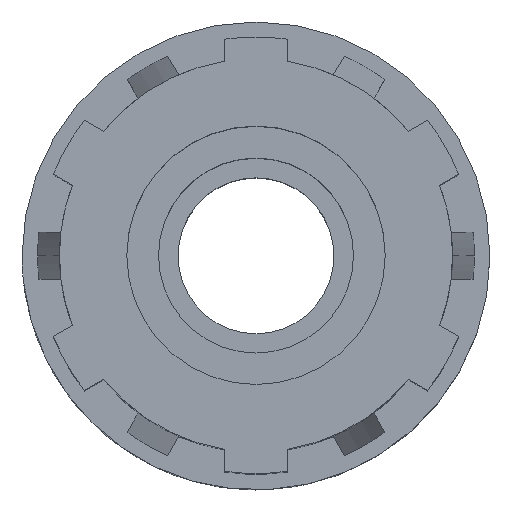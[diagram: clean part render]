
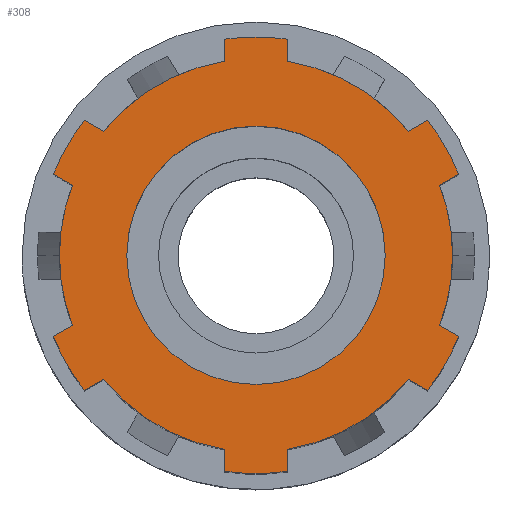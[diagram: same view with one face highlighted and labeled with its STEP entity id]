
A CAD part, top view. The second image highlights one B-rep face of the part: STEP entity #308.
In plain terms, the highlighted planar face has unit normal (0, 0, 1).
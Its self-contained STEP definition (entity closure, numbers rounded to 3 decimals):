
#308=ADVANCED_FACE('0:35',(#601,#602),#603,.T.);
#601=FACE_BOUND('',#892,.T.);
#602=FACE_OUTER_BOUND('',#893,.T.);
#603=PLANE('',#894);
#892=EDGE_LOOP('',(#1528,#1529));
#893=EDGE_LOOP('',(#1530,#1531,#1532,#1533,#1534,#1535,#1536,#1537,#1538,#1539,#1540,#1541,#1542,#1543,#1544,#1545,#1546,#1547,#1548,#1549,#1550,#1551,#1552,#1553,#1554,#1555));
#894=AXIS2_PLACEMENT_3D('',#1556,#1557,#1558);
#1528=ORIENTED_EDGE('',*,*,#1964,.T.);
#1529=ORIENTED_EDGE('',*,*,#1769,.T.);
#1530=ORIENTED_EDGE('',*,*,#1983,.F.);
#1531=ORIENTED_EDGE('',*,*,#2015,.T.);
#1532=ORIENTED_EDGE('',*,*,#1758,.T.);
#1533=ORIENTED_EDGE('',*,*,#2016,.T.);
#1534=ORIENTED_EDGE('',*,*,#1961,.F.);
#1535=ORIENTED_EDGE('',*,*,#1860,.T.);
#1536=ORIENTED_EDGE('',*,*,#1846,.T.);
#1537=ORIENTED_EDGE('',*,*,#2017,.T.);
#1538=ORIENTED_EDGE('',*,*,#1934,.F.);
#1539=ORIENTED_EDGE('',*,*,#1947,.T.);
#1540=ORIENTED_EDGE('',*,*,#1972,.T.);
#1541=ORIENTED_EDGE('',*,*,#1979,.T.);
#1542=ORIENTED_EDGE('',*,*,#1853,.T.);
#1543=ORIENTED_EDGE('',*,*,#2018,.F.);
#1544=ORIENTED_EDGE('',*,*,#1993,.T.);
#1545=ORIENTED_EDGE('',*,*,#1986,.T.);
#1546=ORIENTED_EDGE('',*,*,#1866,.T.);
#1547=ORIENTED_EDGE('',*,*,#1959,.F.);
#1548=ORIENTED_EDGE('',*,*,#2019,.T.);
#1549=ORIENTED_EDGE('',*,*,#1842,.T.);
#1550=ORIENTED_EDGE('',*,*,#1838,.T.);
#1551=ORIENTED_EDGE('',*,*,#1903,.F.);
#1552=ORIENTED_EDGE('',*,*,#1877,.T.);
#1553=ORIENTED_EDGE('',*,*,#2020,.T.);
#1554=ORIENTED_EDGE('',*,*,#1750,.T.);
#1555=ORIENTED_EDGE('',*,*,#2021,.T.);
#1556=CARTESIAN_POINT('',(522.864,476.726,25.0));
#1557=DIRECTION('',(0.0,0.0,1.0));
#1558=DIRECTION('',(1.0,-0.0,0.0));
#1750=EDGE_CURVE('',#2058,#2055,#2059,.T.);
#1758=EDGE_CURVE('',#2073,#2071,#2074,.T.);
#1769=EDGE_CURVE('',#2086,#2090,#2092,.F.);
#1838=EDGE_CURVE('',#2219,#2217,#2220,.T.);
#1842=EDGE_CURVE('',#2224,#2219,#2225,.T.);
#1846=EDGE_CURVE('',#2230,#2228,#2231,.T.);
#1853=EDGE_CURVE('',#2235,#2240,#2242,.T.);
#1860=EDGE_CURVE('',#2253,#2230,#2254,.F.);
#1866=EDGE_CURVE('',#2263,#2261,#2264,.T.);
#1877=EDGE_CURVE('',#2277,#2275,#2278,.F.);
#1903=EDGE_CURVE('',#2277,#2217,#2317,.T.);
#1934=EDGE_CURVE('',#2361,#2363,#2364,.T.);
#1947=EDGE_CURVE('',#2361,#2379,#2381,.F.);
#1959=EDGE_CURVE('',#2394,#2261,#2396,.T.);
#1961=EDGE_CURVE('',#2253,#2398,#2399,.T.);
#1964=EDGE_CURVE('',#2090,#2086,#2402,.F.);
#1972=EDGE_CURVE('',#2379,#2409,#2411,.T.);
#1979=EDGE_CURVE('',#2409,#2235,#2418,.T.);
#1983=EDGE_CURVE('',#2421,#2423,#2424,.T.);
#1986=EDGE_CURVE('',#2427,#2263,#2428,.T.);
#1993=EDGE_CURVE('',#2437,#2427,#2438,.F.);
#2015=EDGE_CURVE('',#2421,#2073,#2462,.F.);
#2016=EDGE_CURVE('',#2071,#2398,#2463,.T.);
#2017=EDGE_CURVE('',#2228,#2363,#2464,.T.);
#2018=EDGE_CURVE('',#2437,#2240,#2465,.T.);
#2019=EDGE_CURVE('',#2394,#2224,#2466,.F.);
#2020=EDGE_CURVE('',#2275,#2058,#2467,.T.);
#2021=EDGE_CURVE('',#2055,#2423,#2468,.T.);
#2055=VERTEX_POINT('',#2502);
#2058=VERTEX_POINT('',#2506);
#2059=CIRCLE('',#2507,12.6);
#2071=VERTEX_POINT('',#2522);
#2073=VERTEX_POINT('',#2525);
#2074=LINE('',#2526,#2527);
#2086=VERTEX_POINT('',#2550);
#2090=VERTEX_POINT('',#2555);
#2092=CIRCLE('',#2558,8.285);
#2217=VERTEX_POINT('',#2722);
#2219=VERTEX_POINT('',#2725);
#2220=CIRCLE('',#2726,12.6);
#2224=VERTEX_POINT('',#2732);
#2225=LINE('',#2733,#2734);
#2228=VERTEX_POINT('',#2738);
#2230=VERTEX_POINT('',#2741);
#2231=LINE('',#2742,#2743);
#2235=VERTEX_POINT('',#2748);
#2240=VERTEX_POINT('',#2755);
#2242=CIRCLE('',#2758,12.6);
#2253=VERTEX_POINT('',#2771);
#2254=CIRCLE('',#2772,14.0);
#2261=VERTEX_POINT('',#2781);
#2263=VERTEX_POINT('',#2784);
#2264=CIRCLE('',#2785,12.6);
#2275=VERTEX_POINT('',#2808);
#2277=VERTEX_POINT('',#2811);
#2278=CIRCLE('',#2812,14.0);
#2317=LINE('',#2875,#2876);
#2361=VERTEX_POINT('',#2953);
#2363=VERTEX_POINT('',#2956);
#2364=LINE('',#2957,#2958);
#2379=VERTEX_POINT('',#2977);
#2381=CIRCLE('',#2980,14.0);
#2394=VERTEX_POINT('',#3014);
#2396=LINE('',#3017,#3018);
#2398=VERTEX_POINT('',#3020);
#2399=LINE('',#3021,#3022);
#2402=CIRCLE('',#3026,8.285);
#2409=VERTEX_POINT('',#3035);
#2411=LINE('',#3038,#3039);
#2418=CIRCLE('',#3048,12.6);
#2421=VERTEX_POINT('',#3052);
#2423=VERTEX_POINT('',#3055);
#2424=LINE('',#3056,#3057);
#2427=VERTEX_POINT('',#3061);
#2428=LINE('',#3062,#3063);
#2437=VERTEX_POINT('',#3091);
#2438=CIRCLE('',#3092,14.0);
#2462=CIRCLE('',#3120,14.0);
#2463=CIRCLE('',#3121,12.6);
#2464=CIRCLE('',#3122,12.6);
#2465=LINE('',#3123,#3124);
#2466=CIRCLE('',#3125,14.0);
#2467=LINE('',#3126,#3127);
#2468=CIRCLE('',#3128,12.6);
#2502=CARTESIAN_POINT('',(510.264,476.726,25.0));
#2506=CARTESIAN_POINT('',(511.091,481.215,25.0));
#2507=AXIS2_PLACEMENT_3D('',#3167,#3168,#3169);
#2522=CARTESIAN_POINT('',(513.091,468.774,25.0));
#2525=CARTESIAN_POINT('',(511.864,468.066,25.0));
#2526=CARTESIAN_POINT('',(512.302,468.319,25.0));
#2527=VECTOR('',#3180,0.001);
#2550=CARTESIAN_POINT('',(514.579,476.726,25.0));
#2555=CARTESIAN_POINT('',(531.149,476.726,25.0));
#2558=AXIS2_PLACEMENT_3D('',#3194,#3195,#3196);
#2722=CARTESIAN_POINT('',(513.091,484.679,25.0));
#2725=CARTESIAN_POINT('',(520.864,489.167,25.0));
#2726=AXIS2_PLACEMENT_3D('',#3321,#3322,#3323);
#2732=CARTESIAN_POINT('',(520.864,490.583,25.0));
#2733=CARTESIAN_POINT('',(520.864,490.077,25.0));
#2734=VECTOR('',#3326,0.001);
#2738=CARTESIAN_POINT('',(524.864,464.286,25.0));
#2741=CARTESIAN_POINT('',(524.864,462.87,25.0));
#2742=CARTESIAN_POINT('',(524.864,463.375,25.0));
#2743=VECTOR('',#3329,0.001);
#2748=CARTESIAN_POINT('',(535.464,476.726,25.0));
#2755=CARTESIAN_POINT('',(534.638,481.215,25.0));
#2758=AXIS2_PLACEMENT_3D('',#3337,#3338,#3339);
#2771=CARTESIAN_POINT('',(520.864,462.87,25.0));
#2772=AXIS2_PLACEMENT_3D('',#3348,#3349,#3350);
#2781=CARTESIAN_POINT('',(524.864,489.167,25.0));
#2784=CARTESIAN_POINT('',(532.638,484.679,25.0));
#2785=AXIS2_PLACEMENT_3D('',#3357,#3358,#3359);
#2808=CARTESIAN_POINT('',(509.864,481.923,25.0));
#2811=CARTESIAN_POINT('',(511.864,485.387,25.0));
#2812=AXIS2_PLACEMENT_3D('',#3370,#3371,#3372);
#2875=CARTESIAN_POINT('',(512.302,485.134,25.0));
#2876=VECTOR('',#3409,0.001);
#2953=CARTESIAN_POINT('',(533.864,468.066,25.0));
#2956=CARTESIAN_POINT('',(532.638,468.774,25.0));
#2957=CARTESIAN_POINT('',(533.427,468.319,25.0));
#2958=VECTOR('',#3453,0.001);
#2977=CARTESIAN_POINT('',(535.864,471.53,25.0));
#2980=AXIS2_PLACEMENT_3D('',#3468,#3469,#3470);
#3014=CARTESIAN_POINT('',(524.864,490.583,25.0));
#3017=CARTESIAN_POINT('',(524.864,490.077,25.0));
#3018=VECTOR('',#3478,0.001);
#3020=CARTESIAN_POINT('',(520.864,464.286,25.0));
#3021=CARTESIAN_POINT('',(520.864,463.375,25.0));
#3022=VECTOR('',#3479,0.001);
#3026=AXIS2_PLACEMENT_3D('',#3481,#3482,#3483);
#3035=CARTESIAN_POINT('',(534.638,472.238,25.0));
#3038=CARTESIAN_POINT('',(535.427,471.783,25.0));
#3039=VECTOR('',#3490,0.001);
#3048=AXIS2_PLACEMENT_3D('',#3493,#3494,#3495);
#3052=CARTESIAN_POINT('',(509.864,471.53,25.0));
#3055=CARTESIAN_POINT('',(511.091,472.238,25.0));
#3056=CARTESIAN_POINT('',(510.302,471.783,25.0));
#3057=VECTOR('',#3498,0.001);
#3061=CARTESIAN_POINT('',(533.864,485.387,25.0));
#3062=CARTESIAN_POINT('',(533.427,485.134,25.0));
#3063=VECTOR('',#3500,0.001);
#3091=CARTESIAN_POINT('',(535.864,481.923,25.0));
#3092=AXIS2_PLACEMENT_3D('',#3505,#3506,#3507);
#3120=AXIS2_PLACEMENT_3D('',#3533,#3534,#3535);
#3121=AXIS2_PLACEMENT_3D('',#3536,#3537,#3538);
#3122=AXIS2_PLACEMENT_3D('',#3539,#3540,#3541);
#3123=CARTESIAN_POINT('',(535.427,481.67,25.0));
#3124=VECTOR('',#3542,0.001);
#3125=AXIS2_PLACEMENT_3D('',#3543,#3544,#3545);
#3126=CARTESIAN_POINT('',(510.302,481.67,25.0));
#3127=VECTOR('',#3546,0.001);
#3128=AXIS2_PLACEMENT_3D('',#3547,#3548,#3549);
#3167=CARTESIAN_POINT('',(522.864,476.726,25.0));
#3168=DIRECTION('',(0.0,0.0,1.0));
#3169=DIRECTION('',(1.0,0.0,0.0));
#3180=DIRECTION('',(0.866,0.5,0.0));
#3194=CARTESIAN_POINT('',(522.864,476.726,25.0));
#3195=DIRECTION('',(0.0,0.0,1.0));
#3196=DIRECTION('',(1.0,0.0,0.0));
#3321=CARTESIAN_POINT('',(522.864,476.726,25.0));
#3322=DIRECTION('',(0.0,0.0,1.0));
#3323=DIRECTION('',(1.0,0.0,0.0));
#3326=DIRECTION('',(0.,-1.,0.0));
#3329=DIRECTION('',(0.,1.,0.0));
#3337=CARTESIAN_POINT('',(522.864,476.726,25.0));
#3338=DIRECTION('',(0.0,0.0,1.0));
#3339=DIRECTION('',(1.0,0.0,0.0));
#3348=CARTESIAN_POINT('',(522.864,476.726,25.0));
#3349=DIRECTION('',(-0.0,0.0,-1.0));
#3350=DIRECTION('',(-1.0,0.0,0.0));
#3357=CARTESIAN_POINT('',(522.864,476.726,25.0));
#3358=DIRECTION('',(0.0,0.0,1.0));
#3359=DIRECTION('',(1.0,0.0,0.0));
#3370=CARTESIAN_POINT('',(522.864,476.726,25.0));
#3371=DIRECTION('',(-0.0,0.0,-1.0));
#3372=DIRECTION('',(-1.0,0.0,0.0));
#3409=DIRECTION('',(0.866,-0.5,0.0));
#3453=DIRECTION('',(-0.866,0.5,0.0));
#3468=CARTESIAN_POINT('',(522.864,476.726,25.0));
#3469=DIRECTION('',(-0.0,0.0,-1.0));
#3470=DIRECTION('',(-1.0,0.0,0.0));
#3478=DIRECTION('',(0.,-1.,0.0));
#3479=DIRECTION('',(0.,1.,0.0));
#3481=CARTESIAN_POINT('',(522.864,476.726,25.0));
#3482=DIRECTION('',(0.0,0.0,1.0));
#3483=DIRECTION('',(1.0,0.0,0.0));
#3490=DIRECTION('',(-0.866,0.5,0.0));
#3493=CARTESIAN_POINT('',(522.864,476.726,25.0));
#3494=DIRECTION('',(0.0,0.0,1.0));
#3495=DIRECTION('',(1.0,0.0,0.0));
#3498=DIRECTION('',(0.866,0.5,0.0));
#3500=DIRECTION('',(-0.866,-0.5,0.0));
#3505=CARTESIAN_POINT('',(522.864,476.726,25.0));
#3506=DIRECTION('',(-0.0,0.0,-1.0));
#3507=DIRECTION('',(-1.0,0.0,0.0));
#3533=CARTESIAN_POINT('',(522.864,476.726,25.0));
#3534=DIRECTION('',(-0.0,0.0,-1.0));
#3535=DIRECTION('',(-1.0,0.0,0.0));
#3536=CARTESIAN_POINT('',(522.864,476.726,25.0));
#3537=DIRECTION('',(0.0,0.0,1.0));
#3538=DIRECTION('',(1.0,0.0,0.0));
#3539=CARTESIAN_POINT('',(522.864,476.726,25.0));
#3540=DIRECTION('',(0.0,0.0,1.0));
#3541=DIRECTION('',(1.0,0.0,0.0));
#3542=DIRECTION('',(-0.866,-0.5,0.0));
#3543=CARTESIAN_POINT('',(522.864,476.726,25.0));
#3544=DIRECTION('',(-0.0,0.0,-1.0));
#3545=DIRECTION('',(-1.0,0.0,0.0));
#3546=DIRECTION('',(0.866,-0.5,0.0));
#3547=CARTESIAN_POINT('',(522.864,476.726,25.0));
#3548=DIRECTION('',(0.0,0.0,1.0));
#3549=DIRECTION('',(1.0,0.0,0.0));
